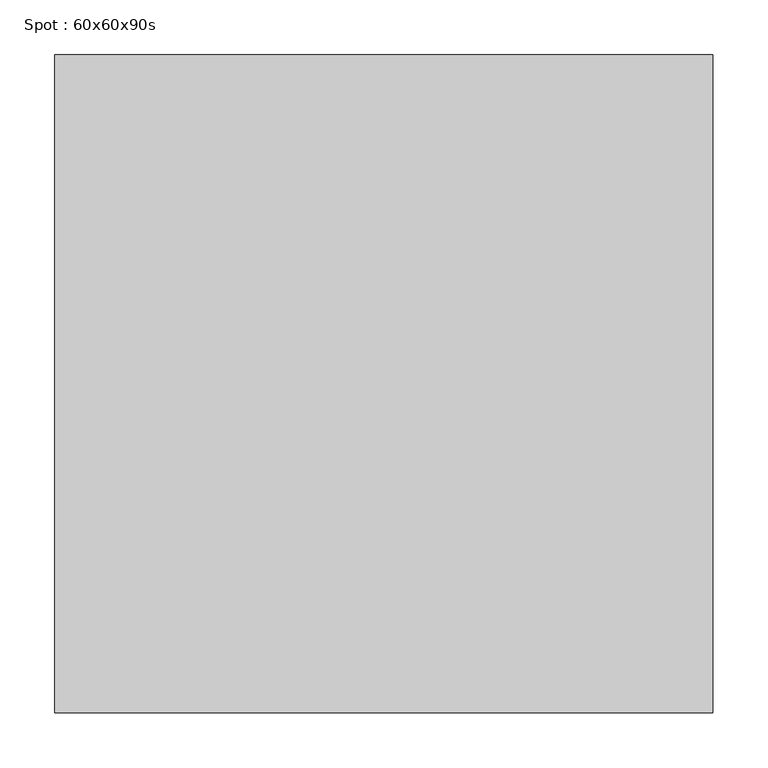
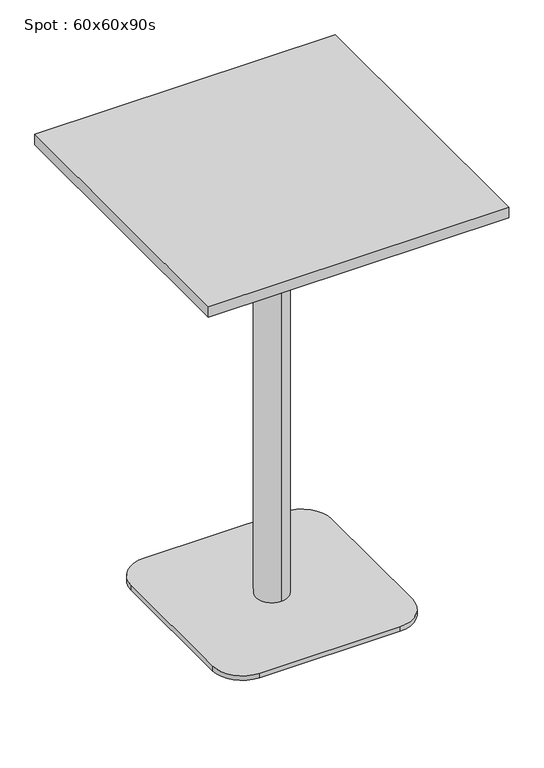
"""IFC4 building model written with IfcOpenShell, lengths in millimetres: furniture geometry, Spot : 60x60x90s."""

from ifc_helpers import new_model, si_unit, point, frame, frame_2d, origin, origin_with_axes, place, context, project, spatial, polyline, circle_curve, trimmed, segment, composite_curve, outline, extrude, source, transform, mapped, element, save
from ifc_brep_helpers import plane_surface, cylinder_surface, revolved_surface, advanced_brep


def spot_60x60x90s_9f3c50d7(model_context):
    return source(origin(), model_context, "Body", "SolidModel", [
        extrude(outline(polyline([(300.0, 300.0), (300.0, -300.0), (-300.0, -300.0), (-300.0, 300.0), (300.0, 300.0)])), frame((0.0, 0.0, 878.0), z_axis=(0.0, 0.0, 1.0), x_axis=(1.0, 0.0, 0.0)), (0.0, 0.0, 1.0), 22.0),
        extrude(outline(composite_curve([segment(trimmed(circle_curve(frame_2d((140.0, 140.0)), 60.0), [point((140.0, 200.0))], [point((200.0, 140.0))], False, "CARTESIAN"), True, "CONTINUOUS"), segment(polyline([(200.0, 140.0), (200.0, -140.0)]), True, "CONTINUOUS"), segment(trimmed(circle_curve(frame_2d((140.0, -140.0)), 60.0), [point((200.0, -140.0))], [point((140.0, -200.0))], False, "CARTESIAN"), True, "CONTINUOUS"), segment(polyline([(140.0, -200.0), (-140.0, -200.0)]), True, "CONTINUOUS"), segment(trimmed(circle_curve(frame_2d((-140.0, -140.0)), 60.0), [point((-140.0, -200.0))], [point((-200.0, -140.0))], False, "CARTESIAN"), True, "CONTINUOUS"), segment(polyline([(-200.0, -140.0), (-200.0, 140.0)]), True, "CONTINUOUS"), segment(trimmed(circle_curve(frame_2d((-140.0, 140.0)), 60.0), [point((-200.0, 140.0))], [point((-140.0, 200.0))], False, "CARTESIAN"), True, "CONTINUOUS"), segment(polyline([(-140.0, 200.0), (140.0, 200.0)]), True, "CONTINUOUS")], self_intersect=False)), origin_with_axes(), (0.0, 0.0, 1.0), 10.0),
        advanced_brep(
        [(0.0, 32.0, 10.0), (0.0, -32.0, 10.0), (0.0, -32.0, 847.406916), (0.0, 32.0, 847.406916), (0.0, 0.0, 10.0), (0.0, 150.0, 878.0), (0.0, -150.0, 878.0), (0.0, 0.0, 878.0), (0.0, 150.0, 866.7213673), (0.0, -150.0, 866.7213673)],
        [
            (0, 1, circle_curve(frame((0.0, 0.0, 10.0), z_axis=(0.0, 0.0, 1.0), x_axis=(0.0, -1.0, 0.0)), 32.0)),
            (1, 2),
            (2, 3, circle_curve(frame((0.0, 0.0, 847.406916), z_axis=(0.0, 0.0, -1.0), x_axis=(0.0, -1.0, 0.0)), 32.0)),
            (3, 0),
            (1, 0, circle_curve(frame((0.0, 0.0, 10.0), z_axis=(0.0, 0.0, 1.0), x_axis=(0.0, -1.0, 0.0)), 32.0)),
            (3, 2, circle_curve(frame((0.0, 0.0, 847.406916), z_axis=(0.0, 0.0, -1.0), x_axis=(0.0, -1.0, 0.0)), 32.0)),
            (4, 1),
            (0, 4),
            (5, 6, circle_curve(frame((0.0, 0.0, 878.0), z_axis=(0.0, 0.0, 1.0), x_axis=(0.0, -1.0, 0.0)), 150.0)),
            (6, 7),
            (7, 5),
            (6, 5, circle_curve(frame((0.0, 0.0, 878.0), z_axis=(0.0, 0.0, 1.0), x_axis=(0.0, -1.0, 0.0)), 150.0)),
            (8, 9, circle_curve(frame((0.0, 0.0, 866.7213673), z_axis=(0.0, 0.0, 1.0), x_axis=(0.0, -1.0, 0.0)), 150.0)),
            (9, 6),
            (5, 8),
            (9, 8, circle_curve(frame((0.0, 0.0, 866.7213673), z_axis=(0.0, 0.0, 1.0), x_axis=(0.0, -1.0, 0.0)), 150.0)),
            (2, 9),
            (8, 3),
        ],
        [
            cylinder_surface(frame((0.0, 0.0, 1240.0), z_axis=(0.0, 0.0, -1.0), x_axis=(0.0, -1.0, 0.0)), 32.0),
            plane_surface(frame((0.0, 0.0, 10.0), z_axis=(0.0, 0.0, -1.0), x_axis=(0.0, -1.0, 0.0))),
            plane_surface(frame((0.0, 0.0, 878.0), z_axis=(0.0, 0.0, 1.0), x_axis=(0.0, -1.0, 0.0))),
            cylinder_surface(frame((0.0, 0.0, 1240.0), z_axis=(0.0, 0.0, -1.0), x_axis=(0.0, -1.0, 0.0)), 150.0),
            revolved_surface(polyline([(0.0, -150.0, 866.7213673), (0.0, -32.0, 847.406916)]), (0.0, 0.0, 1240.0), (0.0, 0.0, -1.0)),
        ],
        [
            (0, [[1, 2, 3, 4]]),
            (0, [[5, -4, 6, -2]]),
            (1, [[7, -1, 8]]),
            (1, [[-8, -5, -7]]),
            (2, [[9, 10, 11]]),
            (2, [[12, -11, -10]]),
            (3, [[13, 14, -9, 15]]),
            (3, [[16, -15, -12, -14]]),
            (4, [[-3, 17, -13, 18]]),
            (4, [[-6, -18, -16, -17]]),
        ],
    ),
        extrude(outline(polyline([(0.0, 0.0), (-20.0, 0.0), (-20.0, 20.0), (0.0, 20.0), (0.0, 0.0)])), origin_with_axes(), (0.0, 0.0, 1.0), 10.0),
    ])


if __name__ == "__main__":
    model = new_model("IFC4")
    model_context = context("Model", 3, world=origin())
    ifc_project = project(units=[si_unit("LENGTHUNIT", "METRE", prefix="MILLI")], contexts=[model_context])
    site = spatial("IfcSite", under=ifc_project)
    building = spatial("IfcBuilding", under=site)
    placement = place(None, origin())
    spot_60x60x90s_shape = spot_60x60x90s_9f3c50d7(model_context)
    element("IfcFurniture", 1, ObjectType="Spot : 60x60x90s", at=placement, inside=building, context=model_context, shape_type="MappedRepresentation", body=[
        mapped(spot_60x60x90s_shape, transform((0.0, 0.0, 0.0), x_axis=(1.0, 0.0, 0.0), y_axis=(0.0, 1.0, 0.0), z_axis=(0.0, 0.0, 1.0))),
    ])
    save(model, "model.ifc")
